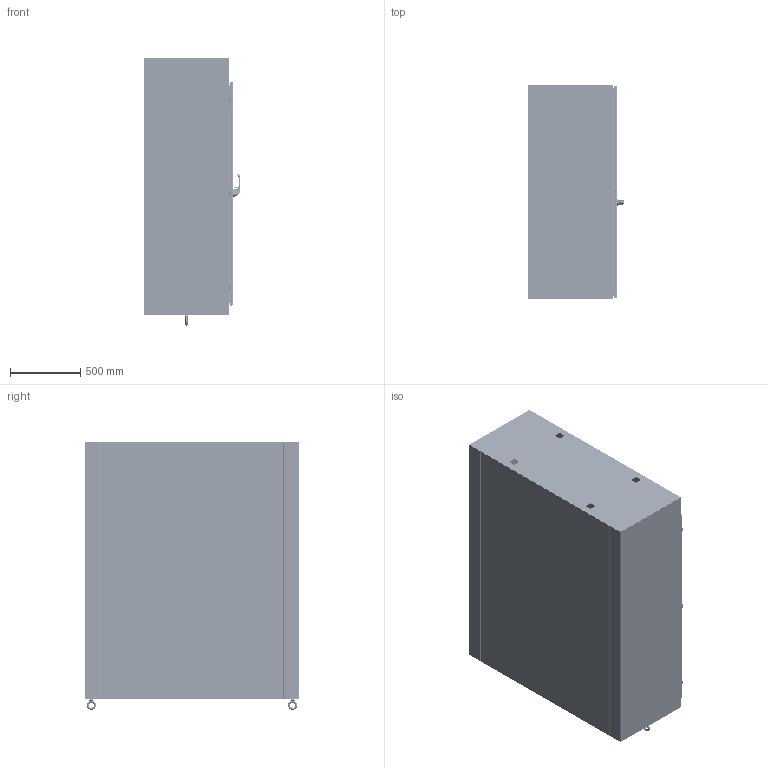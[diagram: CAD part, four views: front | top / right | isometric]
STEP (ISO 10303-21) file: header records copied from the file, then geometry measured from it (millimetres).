
FILE_DESCRIPTION((''),'2;1');
FILE_NAME('MODEL-245_ASM','2024-05-24T11:13:04',('johnh'),('SAGINAW CONTROL & ENGINEERING'),'CREO PARAMETRIC BY PTC INC, 2021284','CREO PARAMETRIC BY PTC INC, 2021284','');
FILE_SCHEMA(('AUTOMOTIVE_DESIGN { 1 0 10303 214 1 1 1 1 }'));
Length unit declared in the file: inch
Products named in the file (64): MODEL-245-L-SD; MODEL-245-TP; MODEL-245-R-SD; MODEL-245-BTM; MODEL-245-BCK; MODEL-245-MSTR; 100837; 111267; 100882; 100955_SCREW_MTG; 100955_PADLOCK_CATCH; 100955_SCREW_LARGE; 100955_INSERT_SHAFT; 100955_INSERT_PKH; 100955_GASKET; 100955_O-RING; 100955_BASE; 100955_SPRING; 100955_HANDLE; 100955_CAM_SHAFT; 100955_HANDLE_ASM; 100955_CAM_ADAPTER; 100955_EARTH_NUT; 100955_FLANGE_NUT; 100955_CAM_NUT; 100955_KEY_INSERT; 100955_SPRING_CAM; 100955_TORSION_SPRING; 100955_SCREW_INSERT; 100955_ASM; 102236; 100030; 102236_ASM; MODEL-245-ROD-UPR; 128146; 128145; 128144; 102482; MODEL-245-ROD-UPR_ASM; 128143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
Assembly tree (135 placements, depth 5):
  MODEL-245_ASM
    MODEL-245-L-SD
    MODEL-245-TP
    MODEL-245-R-SD
    MODEL-245-BTM
    MODEL-245-BCK
    MODEL-245-MASTER-DR-ASSY_ASM
      MODEL-245-MSTR
      100837  x5
      111267
      100882  x10
      100955_ASM
        100955_SCREW_MTG
        100955_PADLOCK_CATCH
        100955_SCREW_LARGE  x2
        100955_INSERT_SHAFT
        100955_INSERT_PKH
        100955_GASKET
        100955_O-RING
        100955_BASE
        100955_SPRING
        100955_HANDLE_ASM
          100955_HANDLE
          100955_CAM_SHAFT
        100955_CAM_ADAPTER
        100955_EARTH_NUT
        100955_FLANGE_NUT
        100955_CAM_NUT
        100955_KEY_INSERT
        100955_SPRING_CAM
        100955_TORSION_SPRING
        100955_SCREW_INSERT
      102236_ASM
        102236
        100030  x2
      MODEL-245-ROD-UPR_ASM
        MODEL-245-ROD-UPR
        128146
        128145
        128144
        102482  x2
      128143  x2
      112504  x2
      MODEL-245-ROD-LWR_ASM
        MODEL-245-ROD-LWR
        128146
        128145
        128144
        102482  x2
      MODEL-245-PR-GSKT-M
      128257_ASM  x3
        128257
      126393  x3
      102483  x3
      101369_ASM  x3
        101369
        101369-STUD
      101221  x3
    MODEL-245-SLAVE-DR-ASSY_ASM
      MODEL-245-SLV
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Bounding box: 687.85 x 1524 x 1903.6 mm (x, y, z)
Volume: 30418420.5 mm3; surface area: 22700279.3 mm2
Topology: 147 solids, 147 shells, 14683 faces, 37994 edges, 23731 vertices
Faces by surface type: plane 5206, cylinder 4029, bspline 3544, torus 891, cone 709, sphere 274, extrusion 30
Entity records: 395920 total; most frequent: CARTESIAN_POINT 153716, ORIENTED_EDGE 36160, DIRECTION 33245, PRESENTATION_STYLE_ASSIGNMENT 19683, STYLED_ITEM 19678, CURVE_STYLE 18080, EDGE_CURVE 18080, AXIS2_PLACEMENT_3D 12479
